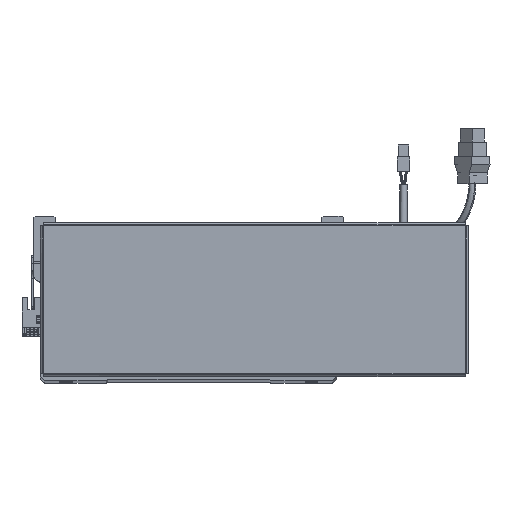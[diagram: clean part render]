
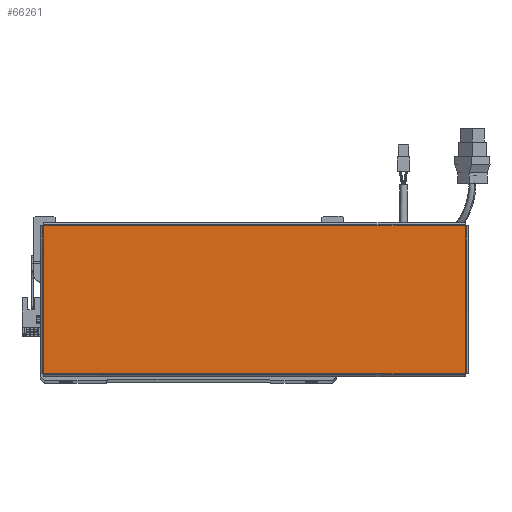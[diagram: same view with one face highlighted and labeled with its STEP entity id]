
A CAD part, top view. The second image highlights one B-rep face of the part: STEP entity #66261.
In plain terms, the highlighted planar face has unit normal (0, 0, 1).
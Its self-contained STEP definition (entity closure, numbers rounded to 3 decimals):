
#66 = LINE ( 'NONE', #18784, #12821 ) ;
#338 = VECTOR ( 'NONE', #19157, 1000. ) ;
#9366 = CARTESIAN_POINT ( 'NONE',  ( -156.543, -54.763, 0. ) ) ;
#11623 = VECTOR ( 'NONE', #65599, 1000. ) ;
#12821 = VECTOR ( 'NONE', #17829, 1000. ) ;
#14085 = ORIENTED_EDGE ( 'NONE', *, *, #67517, .T. ) ;
#16314 = DIRECTION ( 'NONE',  ( 0., 0., 1. ) ) ;
#17829 = DIRECTION ( 'NONE',  ( 0., -1., 0. ) ) ;
#18784 = CARTESIAN_POINT ( 'NONE',  ( -156.513, 54.793, 0. ) ) ;
#19157 = DIRECTION ( 'NONE',  ( -1., 0., 0. ) ) ;
#21601 = LINE ( 'NONE', #51457, #338 ) ;
#26128 = LINE ( 'NONE', #38329, #11623 ) ;
#26545 = CARTESIAN_POINT ( 'NONE',  ( -156.513, -54.763, 0. ) ) ;
#27029 = DIRECTION ( 'NONE',  ( 1., 0., 0. ) ) ;
#27923 = ORIENTED_EDGE ( 'NONE', *, *, #58108, .T. ) ;
#28653 = CARTESIAN_POINT ( 'NONE',  ( 156.513, -54.763, 0. ) ) ;
#29743 = EDGE_LOOP ( 'NONE', ( #48035, #27923, #47341, #14085 ) ) ;
#30716 = FACE_OUTER_BOUND ( 'NONE', #29743, .T. ) ;
#33862 = VERTEX_POINT ( 'NONE', #28653 ) ;
#38329 = CARTESIAN_POINT ( 'NONE',  ( 156.513, -54.793, 0. ) ) ;
#40582 = CARTESIAN_POINT ( 'NONE',  ( 156.513, 54.763, 0. ) ) ;
#44486 = VECTOR ( 'NONE', #46649, 1000. ) ;
#45556 = VERTEX_POINT ( 'NONE', #26545 ) ;
#45910 = EDGE_CURVE ( 'NONE', #45556, #33862, #53782, .T. ) ;
#46649 = DIRECTION ( 'NONE',  ( 1., 0., 0. ) ) ;
#47341 = ORIENTED_EDGE ( 'NONE', *, *, #61628, .T. ) ;
#48035 = ORIENTED_EDGE ( 'NONE', *, *, #45910, .T. ) ;
#51457 = CARTESIAN_POINT ( 'NONE',  ( 156.543, 54.763, 0. ) ) ;
#53604 = PLANE ( 'NONE',  #62762 ) ;
#53782 = LINE ( 'NONE', #9366, #44486 ) ;
#58108 = EDGE_CURVE ( 'NONE', #33862, #69156, #26128, .T. ) ;
#58823 = CARTESIAN_POINT ( 'NONE',  ( 0., 0., 0. ) ) ;
#60349 = VERTEX_POINT ( 'NONE', #70289 ) ;
#61628 = EDGE_CURVE ( 'NONE', #69156, #60349, #21601, .T. ) ;
#62762 = AXIS2_PLACEMENT_3D ( 'NONE', #58823, #16314, #27029 ) ;
#65599 = DIRECTION ( 'NONE',  ( 0., 1., 0. ) ) ;
#66261 = ADVANCED_FACE ( 'NONE', ( #30716 ), #53604, .T. ) ;
#67517 = EDGE_CURVE ( 'NONE', #60349, #45556, #66, .T. ) ;
#69156 = VERTEX_POINT ( 'NONE', #40582 ) ;
#70289 = CARTESIAN_POINT ( 'NONE',  ( -156.513, 54.763, 0. ) ) ;
